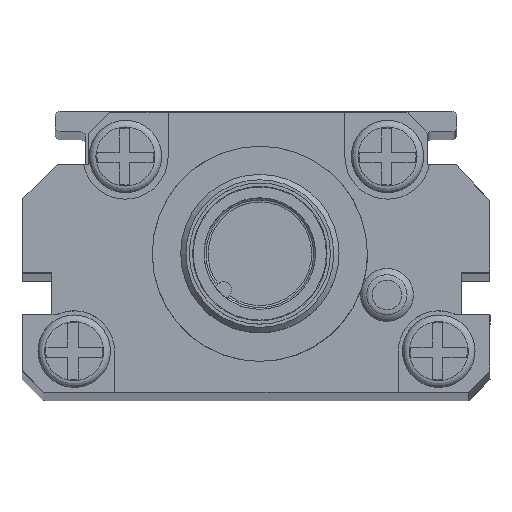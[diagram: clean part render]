
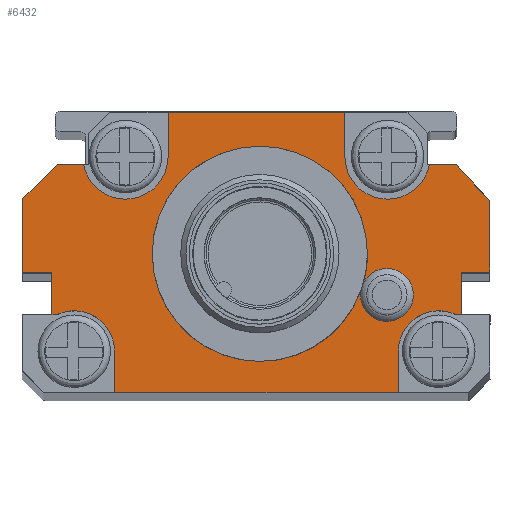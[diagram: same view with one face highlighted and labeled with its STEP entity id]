
A CAD part, top view. The second image highlights one B-rep face of the part: STEP entity #6432.
In plain terms, the highlighted planar face has unit normal (0, 0, 1).
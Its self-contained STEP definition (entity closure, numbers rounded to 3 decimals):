
#6225=CARTESIAN_POINT('',(53.343,44.72,358.14));
#6226=DIRECTION('',(0.0,0.0,1.0));
#6227=DIRECTION('',(1.0,0.0,0.0));
#6228=AXIS2_PLACEMENT_3D('',#6225,#6226,#6227);
#6229=PLANE('',#6228);
#6230=CARTESIAN_POINT('',(68.205,40.817,358.14));
#6231=VERTEX_POINT('',#6230);
#6232=CARTESIAN_POINT('',(68.631,40.817,358.14));
#6233=VERTEX_POINT('',#6232);
#6234=CARTESIAN_POINT('',(68.205,40.817,358.14));
#6235=DIRECTION('',(1.0,0.0,0.0));
#6236=VECTOR('',#6235,0.426);
#6237=LINE('',#6234,#6236);
#6238=EDGE_CURVE('',#6231,#6233,#6237,.T.);
#6239=ORIENTED_EDGE('',*,*,#6238,.T.);
#6240=CARTESIAN_POINT('',(68.631,43.992,358.14));
#6241=VERTEX_POINT('',#6240);
#6242=CARTESIAN_POINT('',(68.631,43.992,358.14));
#6243=DIRECTION('',(0.0,-1.0,0.0));
#6244=VECTOR('',#6243,3.175);
#6245=LINE('',#6242,#6244);
#6246=EDGE_CURVE('',#6241,#6233,#6245,.T.);
#6247=ORIENTED_EDGE('',*,*,#6246,.F.);
#6248=CARTESIAN_POINT('',(70.72,43.992,358.14));
#6249=VERTEX_POINT('',#6248);
#6250=CARTESIAN_POINT('',(70.72,43.992,358.14));
#6251=DIRECTION('',(-1.0,0.0,0.0));
#6252=VECTOR('',#6251,2.09);
#6253=LINE('',#6250,#6252);
#6254=EDGE_CURVE('',#6249,#6241,#6253,.T.);
#6255=ORIENTED_EDGE('',*,*,#6254,.F.);
#6256=CARTESIAN_POINT('',(70.72,49.241,358.14));
#6257=VERTEX_POINT('',#6256);
#6258=CARTESIAN_POINT('',(70.72,49.241,358.14));
#6259=DIRECTION('',(0.0,-1.0,0.0));
#6260=VECTOR('',#6259,5.248);
#6261=LINE('',#6258,#6260);
#6262=EDGE_CURVE('',#6257,#6249,#6261,.T.);
#6263=ORIENTED_EDGE('',*,*,#6262,.F.);
#6264=CARTESIAN_POINT('',(68.204,51.984,358.14));
#6265=VERTEX_POINT('',#6264);
#6266=CARTESIAN_POINT('',(68.204,51.984,358.14));
#6267=DIRECTION('',(0.676,-0.737,0.0));
#6268=VECTOR('',#6267,3.723);
#6269=LINE('',#6266,#6268);
#6270=EDGE_CURVE('',#6265,#6257,#6269,.T.);
#6271=ORIENTED_EDGE('',*,*,#6270,.F.);
#6272=CARTESIAN_POINT('',(66.218,51.984,358.14));
#6273=VERTEX_POINT('',#6272);
#6274=CARTESIAN_POINT('',(66.218,51.984,358.14));
#6275=DIRECTION('',(1.0,0.0,0.0));
#6276=VECTOR('',#6275,1.986);
#6277=LINE('',#6274,#6276);
#6278=EDGE_CURVE('',#6273,#6265,#6277,.T.);
#6279=ORIENTED_EDGE('',*,*,#6278,.F.);
#6280=CARTESIAN_POINT('',(59.925,52.585,358.14));
#6281=VERTEX_POINT('',#6280);
#6282=CARTESIAN_POINT('',(63.1,52.585,358.14));
#6283=DIRECTION('',(0.0,0.0,-1.0));
#6284=DIRECTION('',(1.0,0.0,0.0));
#6285=AXIS2_PLACEMENT_3D('',#6282,#6283,#6284);
#6286=CIRCLE('',#6285,3.175);
#6287=EDGE_CURVE('',#6273,#6281,#6286,.T.);
#6288=ORIENTED_EDGE('',*,*,#6287,.T.);
#6289=CARTESIAN_POINT('',(59.925,55.887,358.14));
#6290=VERTEX_POINT('',#6289);
#6291=CARTESIAN_POINT('',(59.925,52.585,358.14));
#6292=DIRECTION('',(0.0,1.0,0.0));
#6293=VECTOR('',#6292,3.302);
#6294=LINE('',#6291,#6293);
#6295=EDGE_CURVE('',#6281,#6290,#6294,.T.);
#6296=ORIENTED_EDGE('',*,*,#6295,.T.);
#6297=CARTESIAN_POINT('',(46.787,55.887,358.14));
#6298=VERTEX_POINT('',#6297);
#6299=CARTESIAN_POINT('',(46.787,55.887,358.14));
#6300=DIRECTION('',(1.0,0.0,0.0));
#6301=VECTOR('',#6300,13.139);
#6302=LINE('',#6299,#6301);
#6303=EDGE_CURVE('',#6298,#6290,#6302,.T.);
#6304=ORIENTED_EDGE('',*,*,#6303,.F.);
#6305=CARTESIAN_POINT('',(46.787,52.585,358.14));
#6306=VERTEX_POINT('',#6305);
#6307=CARTESIAN_POINT('',(46.787,55.887,358.14));
#6308=DIRECTION('',(0.0,-1.0,0.0));
#6309=VECTOR('',#6308,3.302);
#6310=LINE('',#6307,#6309);
#6311=EDGE_CURVE('',#6298,#6306,#6310,.T.);
#6312=ORIENTED_EDGE('',*,*,#6311,.T.);
#6313=CARTESIAN_POINT('',(40.494,51.984,358.14));
#6314=VERTEX_POINT('',#6313);
#6315=CARTESIAN_POINT('',(43.612,52.585,358.14));
#6316=DIRECTION('',(0.,0.,-1.));
#6317=DIRECTION('',(0.982,0.189,0.));
#6318=AXIS2_PLACEMENT_3D('',#6315,#6316,#6317);
#6319=CIRCLE('',#6318,3.175);
#6320=EDGE_CURVE('',#6306,#6314,#6319,.T.);
#6321=ORIENTED_EDGE('',*,*,#6320,.T.);
#6322=CARTESIAN_POINT('',(38.547,51.984,358.14));
#6323=VERTEX_POINT('',#6322);
#6324=CARTESIAN_POINT('',(38.547,51.984,358.14));
#6325=DIRECTION('',(1.0,0.0,0.0));
#6326=VECTOR('',#6325,1.947);
#6327=LINE('',#6324,#6326);
#6328=EDGE_CURVE('',#6323,#6314,#6327,.T.);
#6329=ORIENTED_EDGE('',*,*,#6328,.F.);
#6330=CARTESIAN_POINT('',(35.992,49.429,358.14));
#6331=VERTEX_POINT('',#6330);
#6332=CARTESIAN_POINT('',(35.992,49.429,358.14));
#6333=DIRECTION('',(0.707,0.707,0.0));
#6334=VECTOR('',#6333,3.614);
#6335=LINE('',#6332,#6334);
#6336=EDGE_CURVE('',#6331,#6323,#6335,.T.);
#6337=ORIENTED_EDGE('',*,*,#6336,.F.);
#6338=CARTESIAN_POINT('',(35.992,43.992,358.14));
#6339=VERTEX_POINT('',#6338);
#6340=CARTESIAN_POINT('',(35.992,43.992,358.14));
#6341=DIRECTION('',(0.0,1.0,0.0));
#6342=VECTOR('',#6341,5.436);
#6343=LINE('',#6340,#6342);
#6344=EDGE_CURVE('',#6339,#6331,#6343,.T.);
#6345=ORIENTED_EDGE('',*,*,#6344,.F.);
#6346=CARTESIAN_POINT('',(38.151,43.992,358.14));
#6347=VERTEX_POINT('',#6346);
#6348=CARTESIAN_POINT('',(38.151,43.992,358.14));
#6349=DIRECTION('',(-1.0,0.0,0.0));
#6350=VECTOR('',#6349,2.159);
#6351=LINE('',#6348,#6350);
#6352=EDGE_CURVE('',#6347,#6339,#6351,.T.);
#6353=ORIENTED_EDGE('',*,*,#6352,.F.);
#6354=CARTESIAN_POINT('',(38.151,40.817,358.14));
#6355=VERTEX_POINT('',#6354);
#6356=CARTESIAN_POINT('',(38.151,40.817,358.14));
#6357=DIRECTION('',(0.0,1.0,0.0));
#6358=VECTOR('',#6357,3.175);
#6359=LINE('',#6356,#6358);
#6360=EDGE_CURVE('',#6355,#6347,#6359,.T.);
#6361=ORIENTED_EDGE('',*,*,#6360,.F.);
#6362=CARTESIAN_POINT('',(38.507,40.817,358.14));
#6363=VERTEX_POINT('',#6362);
#6364=CARTESIAN_POINT('',(38.151,40.817,358.14));
#6365=DIRECTION('',(1.0,0.0,0.0));
#6366=VECTOR('',#6365,0.357);
#6367=LINE('',#6364,#6366);
#6368=EDGE_CURVE('',#6355,#6363,#6367,.T.);
#6369=ORIENTED_EDGE('',*,*,#6368,.T.);
#6370=CARTESIAN_POINT('',(42.802,38.111,358.14));
#6371=VERTEX_POINT('',#6370);
#6372=CARTESIAN_POINT('',(39.802,38.111,358.14));
#6373=DIRECTION('',(0.0,0.0,-1.0));
#6374=DIRECTION('',(1.0,0.0,0.0));
#6375=AXIS2_PLACEMENT_3D('',#6372,#6373,#6374);
#6376=CIRCLE('',#6375,3.);
#6377=EDGE_CURVE('',#6363,#6371,#6376,.T.);
#6378=ORIENTED_EDGE('',*,*,#6377,.T.);
#6379=CARTESIAN_POINT('',(42.802,35.063,358.14));
#6380=VERTEX_POINT('',#6379);
#6381=CARTESIAN_POINT('',(42.802,38.111,358.14));
#6382=DIRECTION('',(0.0,-1.0,0.0));
#6383=VECTOR('',#6382,3.048);
#6384=LINE('',#6381,#6383);
#6385=EDGE_CURVE('',#6371,#6380,#6384,.T.);
#6386=ORIENTED_EDGE('',*,*,#6385,.T.);
#6387=CARTESIAN_POINT('',(63.91,35.063,358.14));
#6388=VERTEX_POINT('',#6387);
#6389=CARTESIAN_POINT('',(63.91,35.063,358.14));
#6390=DIRECTION('',(-1.0,0.0,0.0));
#6391=VECTOR('',#6390,21.109);
#6392=LINE('',#6389,#6391);
#6393=EDGE_CURVE('',#6388,#6380,#6392,.T.);
#6394=ORIENTED_EDGE('',*,*,#6393,.F.);
#6395=CARTESIAN_POINT('',(63.91,38.111,358.14));
#6396=VERTEX_POINT('',#6395);
#6397=CARTESIAN_POINT('',(63.91,35.063,358.14));
#6398=DIRECTION('',(0.0,1.0,0.0));
#6399=VECTOR('',#6398,3.048);
#6400=LINE('',#6397,#6399);
#6401=EDGE_CURVE('',#6388,#6396,#6400,.T.);
#6402=ORIENTED_EDGE('',*,*,#6401,.T.);
#6403=CARTESIAN_POINT('',(66.91,38.111,358.14));
#6404=DIRECTION('',(0.,0.,-1.));
#6405=DIRECTION('',(0.431,0.902,0.));
#6406=AXIS2_PLACEMENT_3D('',#6403,#6404,#6405);
#6407=CIRCLE('',#6406,3.);
#6408=EDGE_CURVE('',#6396,#6231,#6407,.T.);
#6409=ORIENTED_EDGE('',*,*,#6408,.T.);
#6410=EDGE_LOOP('',(#6239,#6247,#6255,#6263,#6271,#6279,#6288,#6296,#6304,#6312,#6321,#6329,#6337,#6345,#6353,#6361,#6369,#6378,#6386,#6394,#6402,#6409));
#6411=FACE_OUTER_BOUND('',#6410,.T.);
#6412=CARTESIAN_POINT('',(61.314,43.206,358.14));
#6413=VERTEX_POINT('',#6412);
#6414=CARTESIAN_POINT('',(61.109,42.57,358.14));
#6415=VERTEX_POINT('',#6414);
#6416=CARTESIAN_POINT('',(63.055,42.292,358.14));
#6417=DIRECTION('',(0.0,0.0,-1.0));
#6418=DIRECTION('',(-1.0,0.0,0.0));
#6419=AXIS2_PLACEMENT_3D('',#6416,#6417,#6418);
#6420=CIRCLE('',#6419,1.966);
#6421=EDGE_CURVE('',#6413,#6415,#6420,.T.);
#6422=ORIENTED_EDGE('',*,*,#6421,.T.);
#6423=CARTESIAN_POINT('',(53.606,45.347,358.14));
#6424=DIRECTION('',(0.0,0.0,-1.0));
#6425=DIRECTION('',(1.0,0.0,0.0));
#6426=AXIS2_PLACEMENT_3D('',#6423,#6424,#6425);
#6427=CIRCLE('',#6426,8.0);
#6428=EDGE_CURVE('',#6415,#6413,#6427,.T.);
#6429=ORIENTED_EDGE('',*,*,#6428,.T.);
#6430=EDGE_LOOP('',(#6422,#6429));
#6431=FACE_BOUND('',#6430,.T.);
#6432=ADVANCED_FACE('',(#6411,#6431),#6229,.T.);
